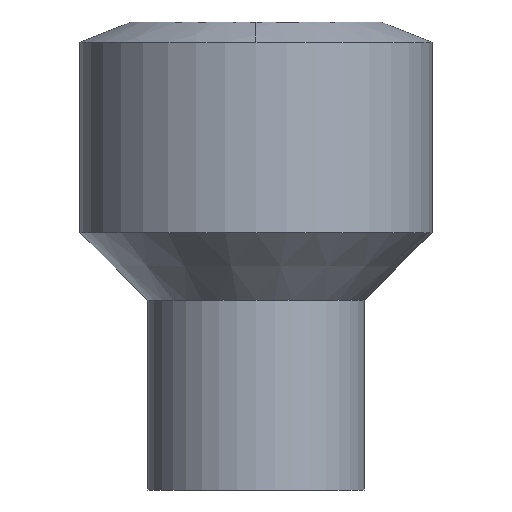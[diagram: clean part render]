
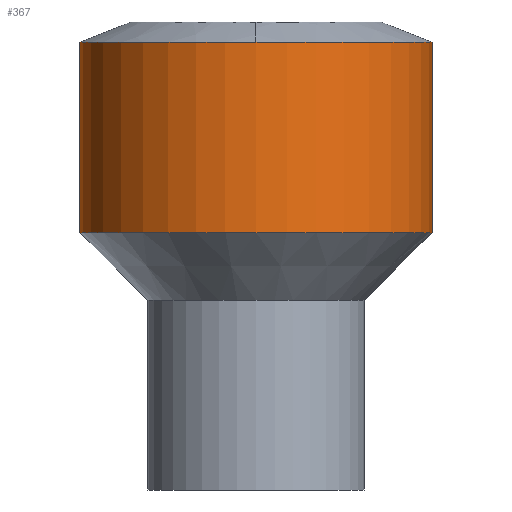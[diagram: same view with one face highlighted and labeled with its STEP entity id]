
A CAD part, front view. The second image highlights one B-rep face of the part: STEP entity #367.
In plain terms, the highlighted cylindrical face has radius 6.5 mm (diameter 13 mm), a partial arc.
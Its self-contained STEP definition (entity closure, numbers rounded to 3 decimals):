
#20 = EDGE_CURVE ( 'NONE', #326, #208, #580, .T. ) ;
#21 = CIRCLE ( 'NONE', #297, 6.5 ) ;
#41 = ORIENTED_EDGE ( 'NONE', *, *, #535, .F. ) ;
#54 = CYLINDRICAL_SURFACE ( 'NONE', #397, 6.5 ) ;
#63 = LINE ( 'NONE', #242, #129 ) ;
#65 = CARTESIAN_POINT ( 'NONE',  ( -6.5, 0., 16.519 ) ) ;
#101 = DIRECTION ( 'NONE',  ( 0., 0., 1. ) ) ;
#118 = EDGE_LOOP ( 'NONE', ( #41, #368, #278, #353, #583 ) ) ;
#129 = VECTOR ( 'NONE', #451, 1000. ) ;
#142 = EDGE_CURVE ( 'NONE', #208, #514, #63, .T. ) ;
#150 = CARTESIAN_POINT ( 'NONE',  ( 0., 0., 16.519 ) ) ;
#153 = CARTESIAN_POINT ( 'NONE',  ( 6.5, 0., 16.519 ) ) ;
#173 = CARTESIAN_POINT ( 'NONE',  ( -6.5, 0., 9.5 ) ) ;
#180 = DIRECTION ( 'NONE',  ( 0., 0., 1. ) ) ;
#185 = FACE_OUTER_BOUND ( 'NONE', #118, .T. ) ;
#192 = CARTESIAN_POINT ( 'NONE',  ( -6.5, 0., 1000. ) ) ;
#208 = VERTEX_POINT ( 'NONE', #373 ) ;
#209 = CARTESIAN_POINT ( 'NONE',  ( 0., 0., 16.519 ) ) ;
#229 = EDGE_CURVE ( 'NONE', #472, #514, #21, .T. ) ;
#236 = CARTESIAN_POINT ( 'NONE',  ( 0., -6.5, 16.519 ) ) ;
#237 = LINE ( 'NONE', #192, #279 ) ;
#242 = CARTESIAN_POINT ( 'NONE',  ( 6.5, 0., 1000. ) ) ;
#260 = CARTESIAN_POINT ( 'NONE',  ( 0., 0., 9.5 ) ) ;
#278 = ORIENTED_EDGE ( 'NONE', *, *, #142, .T. ) ;
#279 = VECTOR ( 'NONE', #398, 1000. ) ;
#297 = AXIS2_PLACEMENT_3D ( 'NONE', #209, #468, #454 ) ;
#326 = VERTEX_POINT ( 'NONE', #173 ) ;
#327 = CARTESIAN_POINT ( 'NONE',  ( 0., 0., 1000. ) ) ;
#353 = ORIENTED_EDGE ( 'NONE', *, *, #229, .F. ) ;
#367 = ADVANCED_FACE ( 'NONE', ( #185 ), #54, .T. ) ;
#368 = ORIENTED_EDGE ( 'NONE', *, *, #20, .T. ) ;
#373 = CARTESIAN_POINT ( 'NONE',  ( 6.5, 0., 9.5 ) ) ;
#383 = AXIS2_PLACEMENT_3D ( 'NONE', #150, #101, #533 ) ;
#397 = AXIS2_PLACEMENT_3D ( 'NONE', #327, #180, #609 ) ;
#398 = DIRECTION ( 'NONE',  ( 0., 0., 1. ) ) ;
#451 = DIRECTION ( 'NONE',  ( 0., 0., 1. ) ) ;
#454 = DIRECTION ( 'NONE',  ( 1., 0., 0. ) ) ;
#468 = DIRECTION ( 'NONE',  ( 0., 0., 1. ) ) ;
#472 = VERTEX_POINT ( 'NONE', #236 ) ;
#507 = DIRECTION ( 'NONE',  ( 0., 0., 1. ) ) ;
#514 = VERTEX_POINT ( 'NONE', #153 ) ;
#518 = EDGE_CURVE ( 'NONE', #575, #472, #557, .T. ) ;
#533 = DIRECTION ( 'NONE',  ( 1., 0., 0. ) ) ;
#535 = EDGE_CURVE ( 'NONE', #326, #575, #237, .T. ) ;
#539 = AXIS2_PLACEMENT_3D ( 'NONE', #260, #507, #558 ) ;
#557 = CIRCLE ( 'NONE', #383, 6.5 ) ;
#558 = DIRECTION ( 'NONE',  ( 1., 0., 0. ) ) ;
#575 = VERTEX_POINT ( 'NONE', #65 ) ;
#580 = CIRCLE ( 'NONE', #539, 6.5 ) ;
#583 = ORIENTED_EDGE ( 'NONE', *, *, #518, .F. ) ;
#609 = DIRECTION ( 'NONE',  ( 1., 0., 0. ) ) ;
